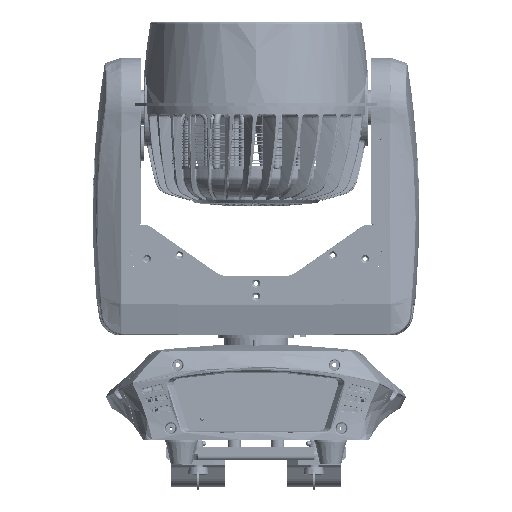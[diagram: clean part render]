
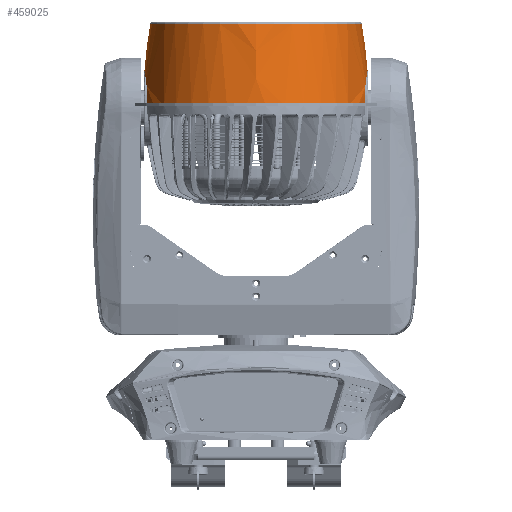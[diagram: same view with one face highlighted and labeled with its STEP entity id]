
A CAD part, left-side view. The second image highlights one B-rep face of the part: STEP entity #459025.
In plain terms, the highlighted free-form (B-spline) face has degree [3, 3] with [7, 4] control points.
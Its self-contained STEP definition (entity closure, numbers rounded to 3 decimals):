
#457080=CARTESIAN_POINT('',(-5.,100.684,-27.5));
#457081=CARTESIAN_POINT('',(-6.5,100.667,-27.5));
#457082=CARTESIAN_POINT('',(-9.507,100.683,
-27.256));
#457083=CARTESIAN_POINT('',(-13.949,100.859,
-26.136));
#457084=CARTESIAN_POINT('',(-18.115,101.159,
-24.315));
#457085=CARTESIAN_POINT('',(-21.976,101.553,
-21.796));
#457086=CARTESIAN_POINT('',(-25.331,101.986,
-18.704));
#457087=CARTESIAN_POINT('',(-27.215,102.272,
-16.281));
#457088=CARTESIAN_POINT('',(-28.051,102.405,
-14.997));
#457090=CARTESIAN_POINT('',(-75.852,0.,0.));
#457091=DIRECTION('',(-1.,0.,0.));
#457092=DIRECTION('',(0.,1.,0.));
#457093=AXIS2_PLACEMENT_3D('',#457090,#457091,#457092);
#457095=CARTESIAN_POINT('',(-28.051,-102.405,
-14.997));
#457096=CARTESIAN_POINT('',(-27.215,-102.272,
-16.282));
#457097=CARTESIAN_POINT('',(-25.331,-101.986,
-18.704));
#457098=CARTESIAN_POINT('',(-21.977,-101.553,
-21.796));
#457099=CARTESIAN_POINT('',(-18.116,-101.159,
-24.315));
#457100=CARTESIAN_POINT('',(-13.95,-100.859,
-26.135));
#457101=CARTESIAN_POINT('',(-9.508,-100.683,
-27.255));
#457102=CARTESIAN_POINT('',(-6.5,-100.667,-27.5));
#457103=CARTESIAN_POINT('',(-5.,-100.684,-27.5));
#457105=CARTESIAN_POINT('',(-5.,-100.684,-27.5));
#457106=CARTESIAN_POINT('',(-4.444,-100.69,-27.5));
#457107=CARTESIAN_POINT('',(-3.333,-100.701,-27.5));
#457108=CARTESIAN_POINT('',(-1.667,-100.71,-27.5));
#457109=CARTESIAN_POINT('',(-0.556,-100.712,-27.5));
#457110=CARTESIAN_POINT('',(0.,-100.711,-27.5));
#457112=CARTESIAN_POINT('',(0.,0.,0.));
#457113=DIRECTION('',(1.,0.,0.));
#457114=DIRECTION('',(0.,-0.965,-0.263));
#457115=AXIS2_PLACEMENT_3D('',#457112,#457113,#457114);
#457117=CARTESIAN_POINT('',(0.,100.711,-27.5));
#457118=CARTESIAN_POINT('',(-0.556,100.712,-27.5));
#457119=CARTESIAN_POINT('',(-1.667,100.71,-27.5));
#457120=CARTESIAN_POINT('',(-3.333,100.701,-27.5));
#457121=CARTESIAN_POINT('',(-4.444,100.69,-27.5));
#457122=CARTESIAN_POINT('',(-5.,100.684,-27.5));
#457377=CARTESIAN_POINT('',(-32.06,-103.218,
0.));
#457378=CARTESIAN_POINT('',(-32.06,-103.218,
-1.544));
#457379=CARTESIAN_POINT('',(-31.886,-103.162,
-4.485));
#457380=CARTESIAN_POINT('',(-31.099,-102.967,
-8.438));
#457381=CARTESIAN_POINT('',(-29.807,-102.702,
-11.98));
#457382=CARTESIAN_POINT('',(-28.677,-102.505,
-14.034));
#457383=CARTESIAN_POINT('',(-28.051,-102.405,
-14.997));
#457403=CARTESIAN_POINT('',(-0.227,-325.602,
0.));
#457404=DIRECTION('',(0.,0.,-1.));
#457405=DIRECTION('',(-0.176,0.984,0.));
#457406=AXIS2_PLACEMENT_3D('',#457403,#457404,#457405);
#457447=CARTESIAN_POINT('',(-0.227,325.602,
0.));
#457448=DIRECTION('',(0.,0.,-1.));
#457449=DIRECTION('',(-0.074,-0.997,0.));
#457450=AXIS2_PLACEMENT_3D('',#457447,#457448,#457449);
#457470=CARTESIAN_POINT('',(-28.051,102.405,
-14.997));
#457471=CARTESIAN_POINT('',(-28.677,102.505,
-14.034));
#457472=CARTESIAN_POINT('',(-29.808,102.702,
-11.98));
#457473=CARTESIAN_POINT('',(-31.099,102.967,
-8.438));
#457474=CARTESIAN_POINT('',(-31.886,103.162,
-4.486));
#457475=CARTESIAN_POINT('',(-32.06,103.218,
-1.545));
#457476=CARTESIAN_POINT('',(-32.06,103.218,
0.));
#457781=VERTEX_POINT('',#457117);
#457782=VERTEX_POINT('',#457122);
#457789=CARTESIAN_POINT('',(-75.852,-97.696,
0.));
#457790=CARTESIAN_POINT('',(-75.852,97.696,
0.));
#457791=VERTEX_POINT('',#457789);
#457792=VERTEX_POINT('',#457790);
#457793=VERTEX_POINT('',#457105);
#457794=VERTEX_POINT('',#457110);
#457797=VERTEX_POINT('',#457088);
#457799=VERTEX_POINT('',#457095);
#457801=VERTEX_POINT('',#457377);
#457804=VERTEX_POINT('',#457476);
#458976=CARTESIAN_POINT('',(-77.352,-97.233,
6.117));
#458977=CARTESIAN_POINT('',(-51.312,-101.971,
6.415));
#458978=CARTESIAN_POINT('',(-24.945,-104.296,
6.562));
#458979=CARTESIAN_POINT('',(1.525,-104.189,
6.555));
#458980=CARTESIAN_POINT('',(-77.352,-100.998,
-53.72));
#458981=CARTESIAN_POINT('',(-51.312,-105.919,
-56.337));
#458982=CARTESIAN_POINT('',(-24.945,-108.335,
-57.622));
#458983=CARTESIAN_POINT('',(1.525,-108.223,
-57.563));
#458984=CARTESIAN_POINT('',(-77.352,-59.955,
-97.425));
#458985=CARTESIAN_POINT('',(-51.312,-62.877,
-102.173));
#458986=CARTESIAN_POINT('',(-24.945,-64.311,
-104.503));
#458987=CARTESIAN_POINT('',(1.525,-64.244,
-104.395));
#458988=CARTESIAN_POINT('',(-77.352,0.,
-97.425));
#458989=CARTESIAN_POINT('',(-51.312,0.,
-102.173));
#458990=CARTESIAN_POINT('',(-24.945,0.,
-104.503));
#458991=CARTESIAN_POINT('',(1.525,0.,
-104.395));
#458992=CARTESIAN_POINT('',(-77.352,59.955,
-97.425));
#458993=CARTESIAN_POINT('',(-51.312,62.877,
-102.173));
#458994=CARTESIAN_POINT('',(-24.945,64.311,
-104.503));
#458995=CARTESIAN_POINT('',(1.525,64.244,
-104.395));
#458996=CARTESIAN_POINT('',(-77.352,100.998,
-53.72));
#458997=CARTESIAN_POINT('',(-51.312,105.919,
-56.337));
#458998=CARTESIAN_POINT('',(-24.945,108.335,
-57.622));
#458999=CARTESIAN_POINT('',(1.525,108.223,
-57.563));
#459000=CARTESIAN_POINT('',(-77.352,97.233,
6.117));
#459001=CARTESIAN_POINT('',(-51.312,101.971,
6.415));
#459002=CARTESIAN_POINT('',(-24.945,104.296,
6.562));
#459003=CARTESIAN_POINT('',(1.525,104.189,
6.555));
#459004=(BOUNDED_SURFACE()B_SPLINE_SURFACE(3,3,((#458976,#458977,#458978,
#458979),(#458980,#458981,#458982,#458983),(#458984,#458985,#458986,#458987),(
#458988,#458989,#458990,#458991),(#458992,#458993,#458994,#458995),(#458996,
#458997,#458998,#458999),(#459000,#459001,#459002,#459003)),.UNSPECIFIED.,.F.,
.F.,.F.)B_SPLINE_SURFACE_WITH_KNOTS((4,3,4),(4,4),(0.,1.,2.),(0.,1.),
.UNSPECIFIED.)GEOMETRIC_REPRESENTATION_ITEM()RATIONAL_B_SPLINE_SURFACE(((
1.19,1.186,1.186,1.19),(
0.94,0.937,0.937,0.94),(
0.94,0.937,0.937,0.94),(
1.19,1.186,1.186,1.19),(
0.94,0.937,0.937,0.94),(
0.94,0.937,0.937,0.94),(
1.19,1.186,1.186,1.19)))REPRESENTATION_ITEM('')SURFACE());
#459006=ORIENTED_EDGE('',*,*,#459005,.T.);
#459008=ORIENTED_EDGE('',*,*,#459007,.T.);
#459010=ORIENTED_EDGE('',*,*,#459009,.F.);
#459011=ORIENTED_EDGE('',*,*,#458970,.T.);
#459013=ORIENTED_EDGE('',*,*,#459012,.F.);
#459015=ORIENTED_EDGE('',*,*,#459014,.T.);
#459017=ORIENTED_EDGE('',*,*,#459016,.T.);
#459019=ORIENTED_EDGE('',*,*,#459018,.T.);
#459020=ORIENTED_EDGE('',*,*,#458134,.T.);
#459022=ORIENTED_EDGE('',*,*,#459021,.T.);
#459023=EDGE_LOOP('',(#459006,#459008,#459010,#459011,#459013,#459015,#459017,
#459019,#459020,#459022));
#459024=FACE_OUTER_BOUND('',#459023,.F.);
#457089=B_SPLINE_CURVE_WITH_KNOTS('',3,(#457080,#457081,#457082,#457083,#457084,
#457085,#457086,#457087,#457088),.UNSPECIFIED.,.F.,.F.,(4,1,1,1,1,1,4),(0.,
0.167,0.333,0.5,0.667,0.833,
1.),.UNSPECIFIED.);
#457094=CIRCLE('',#457093,97.696);
#457104=B_SPLINE_CURVE_WITH_KNOTS('',3,(#457095,#457096,#457097,#457098,#457099,
#457100,#457101,#457102,#457103),.UNSPECIFIED.,.F.,.F.,(4,1,1,1,1,1,4),(0.,
0.167,0.333,0.5,0.667,0.833,
1.),.UNSPECIFIED.);
#457111=B_SPLINE_CURVE_WITH_KNOTS('',3,(#457105,#457106,#457107,#457108,#457109,
#457110),.UNSPECIFIED.,.F.,.F.,(4,1,1,4),(0.,0.333,
0.667,1.),.UNSPECIFIED.);
#457116=CIRCLE('',#457115,104.398);
#457123=B_SPLINE_CURVE_WITH_KNOTS('',3,(#457117,#457118,#457119,#457120,#457121,
#457122),.UNSPECIFIED.,.F.,.F.,(4,1,1,4),(0.,0.333,
0.667,1.),.UNSPECIFIED.);
#457384=B_SPLINE_CURVE_WITH_KNOTS('',3,(#457377,#457378,#457379,#457380,#457381,
#457382,#457383),.UNSPECIFIED.,.F.,.F.,(4,1,1,1,4),(0.,0.25,0.5,0.75,
1.),.UNSPECIFIED.);
#457407=CIRCLE('',#457406,430.);
#457451=CIRCLE('',#457450,430.);
#457477=B_SPLINE_CURVE_WITH_KNOTS('',3,(#457470,#457471,#457472,#457473,#457474,
#457475,#457476),.UNSPECIFIED.,.F.,.F.,(4,1,1,1,4),(0.,0.25,0.5,0.75,
1.),.UNSPECIFIED.);
#458134=EDGE_CURVE('',#457794,#457781,#457116,.T.);
#458970=EDGE_CURVE('',#457792,#457791,#457094,.T.);
#459005=EDGE_CURVE('',#457782,#457797,#457089,.T.);
#459007=EDGE_CURVE('',#457797,#457804,#457477,.T.);
#459009=EDGE_CURVE('',#457792,#457804,#457407,.T.);
#459012=EDGE_CURVE('',#457801,#457791,#457451,.T.);
#459014=EDGE_CURVE('',#457801,#457799,#457384,.T.);
#459016=EDGE_CURVE('',#457799,#457793,#457104,.T.);
#459018=EDGE_CURVE('',#457793,#457794,#457111,.T.);
#459021=EDGE_CURVE('',#457781,#457782,#457123,.T.);
#459025=ADVANCED_FACE('',(#459024),#459004,.T.);
